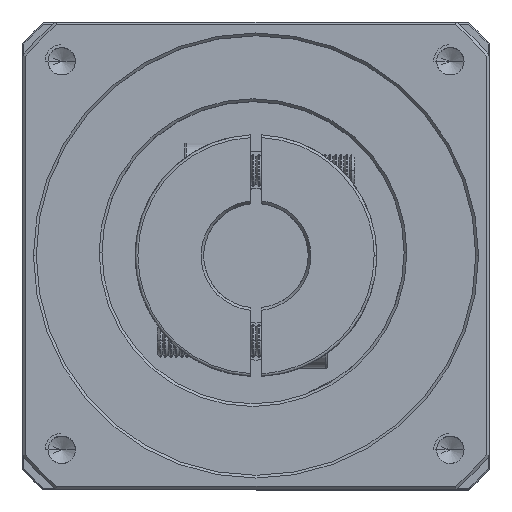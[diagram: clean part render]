
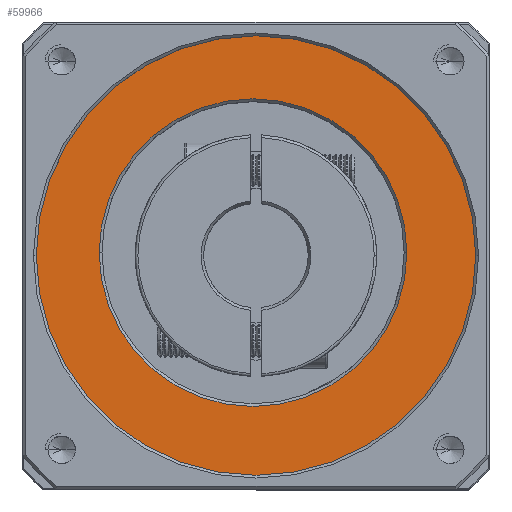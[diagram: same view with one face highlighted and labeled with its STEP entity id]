
A CAD part, top view. The second image highlights one B-rep face of the part: STEP entity #59966.
In plain terms, the highlighted planar face has unit normal (0, 0, 1).
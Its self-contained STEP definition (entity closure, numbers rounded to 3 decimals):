
#1706 = VERTEX_POINT ( 'NONE', #88690 ) ;
#4318 = VERTEX_POINT ( 'NONE', #41113 ) ;
#5018 = AXIS2_PLACEMENT_3D ( 'NONE', #74086, #21858, #82742 ) ;
#6043 = EDGE_CURVE ( 'NONE', #1706, #26583, #16356, .T. ) ;
#9524 = DIRECTION ( 'NONE',  ( 0., 0., 1. ) ) ;
#13795 = VERTEX_POINT ( 'NONE', #94230 ) ;
#14373 = EDGE_LOOP ( 'NONE', ( #47531, #57196 ) ) ;
#15902 = AXIS2_PLACEMENT_3D ( 'NONE', #26592, #87430, #35384 ) ;
#16356 = CIRCLE ( 'NONE', #29130, 28. ) ;
#21858 = DIRECTION ( 'NONE',  ( 0., 0., 1. ) ) ;
#25249 = CIRCLE ( 'NONE', #5018, 40. ) ;
#26583 = VERTEX_POINT ( 'NONE', #45288 ) ;
#26592 = CARTESIAN_POINT ( 'NONE',  ( -88.667, 38.592, 14.807 ) ) ;
#28095 = EDGE_CURVE ( 'NONE', #26583, #1706, #55986, .T. ) ;
#29130 = AXIS2_PLACEMENT_3D ( 'NONE', #85435, #84323, #83963 ) ;
#35384 = DIRECTION ( 'NONE',  ( 1., 0., 0. ) ) ;
#40074 = ORIENTED_EDGE ( 'NONE', *, *, #74817, .T. ) ;
#41113 = CARTESIAN_POINT ( 'NONE',  ( -48.125, 38.057, 14.807 ) ) ;
#41819 = FACE_OUTER_BOUND ( 'NONE', #102170, .T. ) ;
#42861 = DIRECTION ( 'NONE',  ( 0., 0., 1. ) ) ;
#42900 = ORIENTED_EDGE ( 'NONE', *, *, #49972, .T. ) ;
#45288 = CARTESIAN_POINT ( 'NONE',  ( -116.667, 38.592, 14.807 ) ) ;
#47531 = ORIENTED_EDGE ( 'NONE', *, *, #6043, .T. ) ;
#49972 = EDGE_CURVE ( 'NONE', #13795, #4318, #62076, .T. ) ;
#55986 = CIRCLE ( 'NONE', #15902, 28. ) ;
#57196 = ORIENTED_EDGE ( 'NONE', *, *, #28095, .T. ) ;
#59966 = ADVANCED_FACE ( 'NONE', ( #41819, #108075 ), #78940, .T. ) ;
#61859 = CARTESIAN_POINT ( 'NONE',  ( -88.125, 38.057, 14.807 ) ) ;
#62076 = CIRCLE ( 'NONE', #77921, 40. ) ;
#70615 = DIRECTION ( 'NONE',  ( 1., 0., 0. ) ) ;
#74086 = CARTESIAN_POINT ( 'NONE',  ( -88.125, 38.057, 14.807 ) ) ;
#74817 = EDGE_CURVE ( 'NONE', #4318, #13795, #25249, .T. ) ;
#77921 = AXIS2_PLACEMENT_3D ( 'NONE', #94733, #42861, #103314 ) ;
#78940 = PLANE ( 'NONE',  #105725 ) ;
#82742 = DIRECTION ( 'NONE',  ( 1., 0., 0. ) ) ;
#83963 = DIRECTION ( 'NONE',  ( 1., 0., 0. ) ) ;
#84323 = DIRECTION ( 'NONE',  ( 0., 0., -1. ) ) ;
#85435 = CARTESIAN_POINT ( 'NONE',  ( -88.667, 38.592, 14.807 ) ) ;
#87430 = DIRECTION ( 'NONE',  ( 0., 0., -1. ) ) ;
#88690 = CARTESIAN_POINT ( 'NONE',  ( -60.667, 38.592, 14.807 ) ) ;
#94230 = CARTESIAN_POINT ( 'NONE',  ( -128.125, 38.057, 14.807 ) ) ;
#94733 = CARTESIAN_POINT ( 'NONE',  ( -88.125, 38.057, 14.807 ) ) ;
#102170 = EDGE_LOOP ( 'NONE', ( #40074, #42900 ) ) ;
#103314 = DIRECTION ( 'NONE',  ( 1., 0., 0. ) ) ;
#105725 = AXIS2_PLACEMENT_3D ( 'NONE', #61859, #9524, #70615 ) ;
#108075 = FACE_BOUND ( 'NONE', #14373, .T. ) ;
